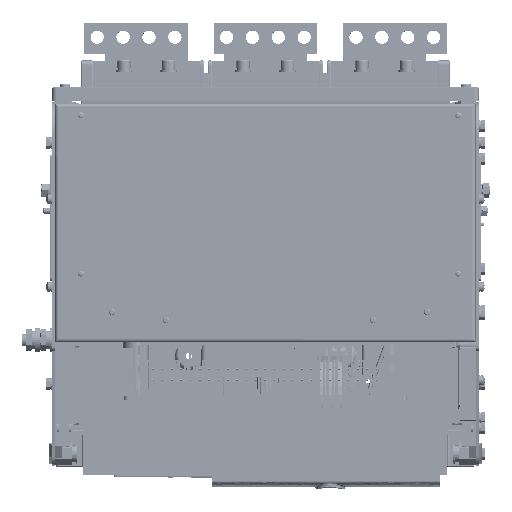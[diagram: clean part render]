
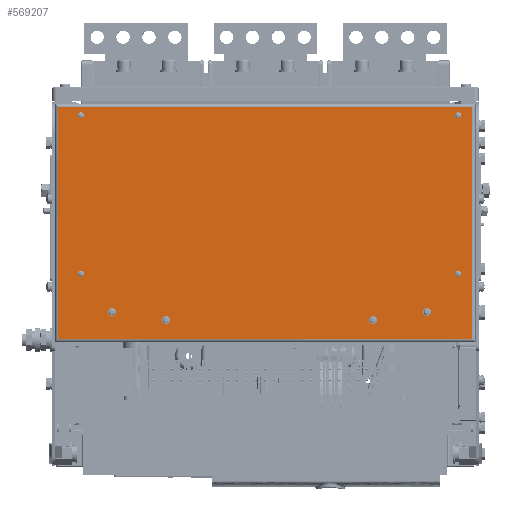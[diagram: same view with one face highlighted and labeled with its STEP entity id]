
A CAD part, top view. The second image highlights one B-rep face of the part: STEP entity #569207.
In plain terms, the highlighted planar face has unit normal (0, 0, 1) as drawn and (-1, 0, 0) by its records, which use the part's own axes.
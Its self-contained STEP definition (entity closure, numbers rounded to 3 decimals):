
#564802=CARTESIAN_POINT('',(-33.742,-318.314,-299.));
#564803=DIRECTION('',(-1.,0.,0.));
#564804=DIRECTION('',(0.,0.,1.));
#564805=AXIS2_PLACEMENT_3D('',#564802,#564803,#564804);
#564807=CARTESIAN_POINT('',(-33.742,-318.314,-299.));
#564808=DIRECTION('',(-1.,0.,0.));
#564809=DIRECTION('',(0.,0.,-1.));
#564810=AXIS2_PLACEMENT_3D('',#564807,#564808,#564809);
#564812=CARTESIAN_POINT('',(-33.742,-318.314,-146.));
#564813=DIRECTION('',(-1.,0.,0.));
#564814=DIRECTION('',(0.,0.,1.));
#564815=AXIS2_PLACEMENT_3D('',#564812,#564813,#564814);
#564817=CARTESIAN_POINT('',(-33.742,-318.314,-146.));
#564818=DIRECTION('',(-1.,0.,0.));
#564819=DIRECTION('',(0.,0.,-1.));
#564820=AXIS2_PLACEMENT_3D('',#564817,#564818,#564819);
#564822=CARTESIAN_POINT('',(-33.742,16.186,-109.));
#564823=DIRECTION('',(-1.,0.,0.));
#564824=DIRECTION('',(0.,0.,-1.));
#564825=AXIS2_PLACEMENT_3D('',#564822,#564823,#564824);
#564827=CARTESIAN_POINT('',(-33.742,16.186,-109.));
#564828=DIRECTION('',(-1.,0.,0.));
#564829=DIRECTION('',(0.,0.,1.));
#564830=AXIS2_PLACEMENT_3D('',#564827,#564828,#564829);
#564832=CARTESIAN_POINT('',(-33.742,46.186,-299.));
#564833=DIRECTION('',(-1.,0.,0.));
#564834=DIRECTION('',(0.,0.,-1.));
#564835=AXIS2_PLACEMENT_3D('',#564832,#564833,#564834);
#564837=CARTESIAN_POINT('',(-33.742,46.186,-299.));
#564838=DIRECTION('',(-1.,0.,0.));
#564839=DIRECTION('',(0.,0.,1.));
#564840=AXIS2_PLACEMENT_3D('',#564837,#564838,#564839);
#564842=CARTESIAN_POINT('',(-33.742,46.186,-146.));
#564843=DIRECTION('',(-1.,0.,0.));
#564844=DIRECTION('',(0.,0.,-1.));
#564845=AXIS2_PLACEMENT_3D('',#564842,#564843,#564844);
#564847=CARTESIAN_POINT('',(-33.742,46.186,-146.));
#564848=DIRECTION('',(-1.,0.,0.));
#564849=DIRECTION('',(0.,0.,1.));
#564850=AXIS2_PLACEMENT_3D('',#564847,#564848,#564849);
#564852=CARTESIAN_POINT('',(-33.742,-36.064,-101.1));
#564853=DIRECTION('',(-1.,0.,0.));
#564854=DIRECTION('',(0.,0.,-1.));
#564855=AXIS2_PLACEMENT_3D('',#564852,#564853,#564854);
#564857=CARTESIAN_POINT('',(-33.742,-36.064,-101.1));
#564858=DIRECTION('',(-1.,0.,0.));
#564859=DIRECTION('',(0.,0.,1.));
#564860=AXIS2_PLACEMENT_3D('',#564857,#564858,#564859);
#564862=CARTESIAN_POINT('',(-33.742,-236.064,-101.1));
#564863=DIRECTION('',(-1.,0.,0.));
#564864=DIRECTION('',(0.,0.,-1.));
#564865=AXIS2_PLACEMENT_3D('',#564862,#564863,#564864);
#564867=CARTESIAN_POINT('',(-33.742,-236.064,-101.1));
#564868=DIRECTION('',(-1.,0.,0.));
#564869=DIRECTION('',(0.,0.,1.));
#564870=AXIS2_PLACEMENT_3D('',#564867,#564868,#564869);
#564872=CARTESIAN_POINT('',(-33.742,-288.314,-109.));
#564873=DIRECTION('',(-1.,0.,0.));
#564874=DIRECTION('',(0.,0.,-1.));
#564875=AXIS2_PLACEMENT_3D('',#564872,#564873,#564874);
#564877=CARTESIAN_POINT('',(-33.742,-288.314,-109.));
#564878=DIRECTION('',(-1.,0.,0.));
#564879=DIRECTION('',(0.,0.,1.));
#564880=AXIS2_PLACEMENT_3D('',#564877,#564878,#564879);
#564886=DIRECTION('',(0.,0.,1.));
#564887=VECTOR('',#564886,224.);
#564888=CARTESIAN_POINT('',(-33.742,-340.064,-307.));
#564889=LINE('',#564888,#564887);
#564897=CARTESIAN_POINT('',(-33.742,-340.064,-83.));
#564899=DIRECTION('',(0.,1.,0.));
#564900=VECTOR('',#564899,400.);
#564901=CARTESIAN_POINT('',(-33.742,-340.064,-83.));
#564902=LINE('',#564901,#564900);
#564917=DIRECTION('',(0.,0.,-1.));
#564918=VECTOR('',#564917,224.);
#564919=CARTESIAN_POINT('',(-33.742,59.936,-83.));
#564920=LINE('',#564919,#564918);
#564934=CARTESIAN_POINT('',(-33.742,-340.064,-307.));
#564947=DIRECTION('',(0.,-1.,0.));
#564948=VECTOR('',#564947,400.);
#564949=CARTESIAN_POINT('',(-33.742,59.936,-307.));
#564950=LINE('',#564949,#564948);
#568283=VERTEX_POINT('',#564897);
#568284=VERTEX_POINT('',#564934);
#568285=CARTESIAN_POINT('',(-33.742,59.936,-83.));
#568286=VERTEX_POINT('',#568285);
#568288=CARTESIAN_POINT('',(-33.742,59.936,-307.));
#568289=VERTEX_POINT('',#568288);
#568290=CARTESIAN_POINT('',(-33.742,-318.314,-296.));
#568291=CARTESIAN_POINT('',(-33.742,-318.314,-302.));
#568292=VERTEX_POINT('',#568290);
#568293=VERTEX_POINT('',#568291);
#568294=CARTESIAN_POINT('',(-33.742,-318.314,-143.));
#568295=CARTESIAN_POINT('',(-33.742,-318.314,-149.));
#568296=VERTEX_POINT('',#568294);
#568297=VERTEX_POINT('',#568295);
#568298=CARTESIAN_POINT('',(-33.742,16.186,-112.9));
#568299=CARTESIAN_POINT('',(-33.742,16.186,-105.1));
#568300=VERTEX_POINT('',#568298);
#568301=VERTEX_POINT('',#568299);
#568302=CARTESIAN_POINT('',(-33.742,46.186,-302.));
#568303=CARTESIAN_POINT('',(-33.742,46.186,-296.));
#568304=VERTEX_POINT('',#568302);
#568305=VERTEX_POINT('',#568303);
#568306=CARTESIAN_POINT('',(-33.742,46.186,-149.));
#568307=CARTESIAN_POINT('',(-33.742,46.186,-143.));
#568308=VERTEX_POINT('',#568306);
#568309=VERTEX_POINT('',#568307);
#568310=CARTESIAN_POINT('',(-33.742,-36.064,-105.));
#568311=CARTESIAN_POINT('',(-33.742,-36.064,-97.2));
#568312=VERTEX_POINT('',#568310);
#568313=VERTEX_POINT('',#568311);
#568314=CARTESIAN_POINT('',(-33.742,-236.064,-105.));
#568315=CARTESIAN_POINT('',(-33.742,-236.064,-97.2));
#568316=VERTEX_POINT('',#568314);
#568317=VERTEX_POINT('',#568315);
#568318=CARTESIAN_POINT('',(-33.742,-288.314,-112.9));
#568319=CARTESIAN_POINT('',(-33.742,-288.314,-105.1));
#568320=VERTEX_POINT('',#568318);
#568321=VERTEX_POINT('',#568319);
#569146=CARTESIAN_POINT('',(-33.742,-282.064,-200.));
#569147=DIRECTION('',(1.,0.,0.));
#569148=DIRECTION('',(0.,0.,-1.));
#569149=AXIS2_PLACEMENT_3D('',#569146,#569147,#569148);
#569150=PLANE('',#569149);
#569152=ORIENTED_EDGE('',*,*,#569151,.F.);
#569154=ORIENTED_EDGE('',*,*,#569153,.F.);
#569156=ORIENTED_EDGE('',*,*,#569155,.F.);
#569158=ORIENTED_EDGE('',*,*,#569157,.F.);
#569159=EDGE_LOOP('',(#569152,#569154,#569156,#569158));
#569160=FACE_OUTER_BOUND('',#569159,.F.);
#569162=ORIENTED_EDGE('',*,*,#569161,.T.);
#569164=ORIENTED_EDGE('',*,*,#569163,.T.);
#569165=EDGE_LOOP('',(#569162,#569164));
#569166=FACE_BOUND('',#569165,.F.);
#569168=ORIENTED_EDGE('',*,*,#569167,.T.);
#569170=ORIENTED_EDGE('',*,*,#569169,.T.);
#569171=EDGE_LOOP('',(#569168,#569170));
#569172=FACE_BOUND('',#569171,.F.);
#569174=ORIENTED_EDGE('',*,*,#569173,.T.);
#569176=ORIENTED_EDGE('',*,*,#569175,.T.);
#569177=EDGE_LOOP('',(#569174,#569176));
#569178=FACE_BOUND('',#569177,.F.);
#569180=ORIENTED_EDGE('',*,*,#569179,.T.);
#569182=ORIENTED_EDGE('',*,*,#569181,.T.);
#569183=EDGE_LOOP('',(#569180,#569182));
#569184=FACE_BOUND('',#569183,.F.);
#569186=ORIENTED_EDGE('',*,*,#569185,.T.);
#569188=ORIENTED_EDGE('',*,*,#569187,.T.);
#569189=EDGE_LOOP('',(#569186,#569188));
#569190=FACE_BOUND('',#569189,.F.);
#569192=ORIENTED_EDGE('',*,*,#569191,.T.);
#569194=ORIENTED_EDGE('',*,*,#569193,.T.);
#569195=EDGE_LOOP('',(#569192,#569194));
#569196=FACE_BOUND('',#569195,.F.);
#569198=ORIENTED_EDGE('',*,*,#569197,.T.);
#569200=ORIENTED_EDGE('',*,*,#569199,.T.);
#569201=EDGE_LOOP('',(#569198,#569200));
#569202=FACE_BOUND('',#569201,.F.);
#569203=ORIENTED_EDGE('',*,*,#569140,.T.);
#569204=ORIENTED_EDGE('',*,*,#569126,.T.);
#569205=EDGE_LOOP('',(#569203,#569204));
#569206=FACE_BOUND('',#569205,.F.);
#569207=ADVANCED_FACE('',(#569160,#569166,#569172,#569178,#569184,#569190,
#569196,#569202,#569206),#569150,.F.);
#564806=CIRCLE('',#564805,3.);
#564811=CIRCLE('',#564810,3.);
#564816=CIRCLE('',#564815,3.);
#564821=CIRCLE('',#564820,3.);
#564826=CIRCLE('',#564825,3.9);
#564831=CIRCLE('',#564830,3.9);
#564836=CIRCLE('',#564835,3.);
#564841=CIRCLE('',#564840,3.);
#564846=CIRCLE('',#564845,3.);
#564851=CIRCLE('',#564850,3.);
#564856=CIRCLE('',#564855,3.9);
#564861=CIRCLE('',#564860,3.9);
#564866=CIRCLE('',#564865,3.9);
#564871=CIRCLE('',#564870,3.9);
#564876=CIRCLE('',#564875,3.9);
#564881=CIRCLE('',#564880,3.9);
#569126=EDGE_CURVE('',#568321,#568320,#564881,.T.);
#569140=EDGE_CURVE('',#568320,#568321,#564876,.T.);
#569151=EDGE_CURVE('',#568284,#568283,#564889,.T.);
#569153=EDGE_CURVE('',#568289,#568284,#564950,.T.);
#569155=EDGE_CURVE('',#568286,#568289,#564920,.T.);
#569157=EDGE_CURVE('',#568283,#568286,#564902,.T.);
#569161=EDGE_CURVE('',#568292,#568293,#564806,.T.);
#569163=EDGE_CURVE('',#568293,#568292,#564811,.T.);
#569167=EDGE_CURVE('',#568296,#568297,#564816,.T.);
#569169=EDGE_CURVE('',#568297,#568296,#564821,.T.);
#569173=EDGE_CURVE('',#568300,#568301,#564826,.T.);
#569175=EDGE_CURVE('',#568301,#568300,#564831,.T.);
#569179=EDGE_CURVE('',#568304,#568305,#564836,.T.);
#569181=EDGE_CURVE('',#568305,#568304,#564841,.T.);
#569185=EDGE_CURVE('',#568308,#568309,#564846,.T.);
#569187=EDGE_CURVE('',#568309,#568308,#564851,.T.);
#569191=EDGE_CURVE('',#568312,#568313,#564856,.T.);
#569193=EDGE_CURVE('',#568313,#568312,#564861,.T.);
#569197=EDGE_CURVE('',#568316,#568317,#564866,.T.);
#569199=EDGE_CURVE('',#568317,#568316,#564871,.T.);
